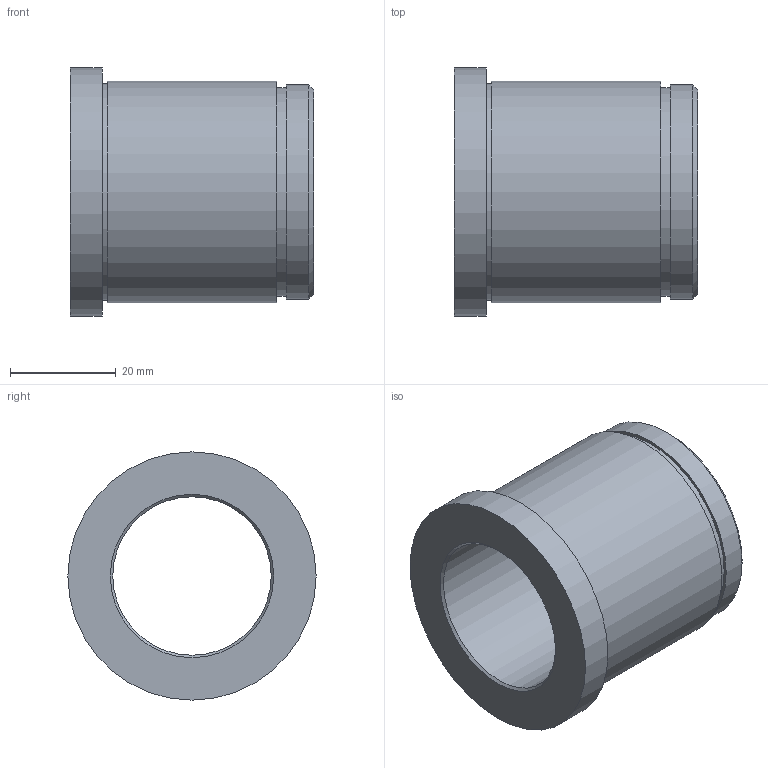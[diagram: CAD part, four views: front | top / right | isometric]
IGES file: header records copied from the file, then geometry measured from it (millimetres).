
Global section: file name: BG05.030046.ipt; native system: Autodesk Inventor 2021; preprocessor: unknown; author: SM; date: 20211221.172757; units: millimetre
Bounding box: 46 x 47 x 47 mm (x, y, z)
Volume: 32409 mm3; surface area: 12663.4 mm2
Topology: 1 solids, 1 shells, 15 faces, 26 edges, 17 vertices
Faces by surface type: plane 6, cylinder 5, revolution 3, cone 1
Full cylindrical faces by diameter (mm): 39.5 x1, 40.6 x1, 41 x1, 42 x1, 47 x1
